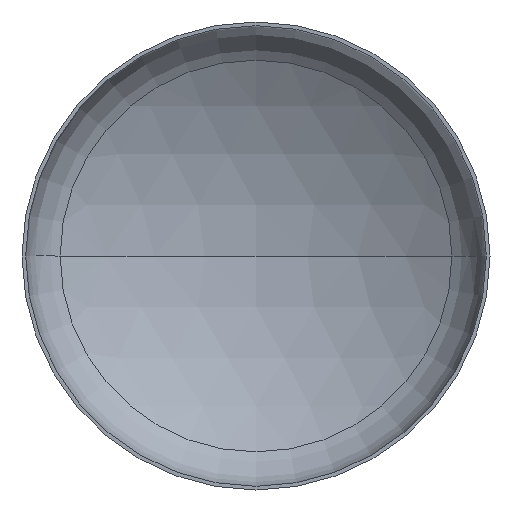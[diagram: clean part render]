
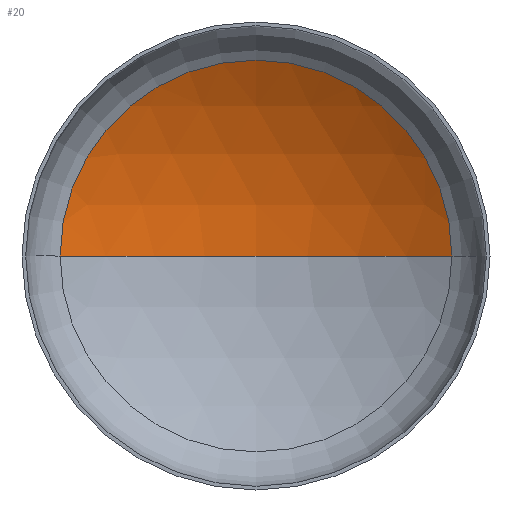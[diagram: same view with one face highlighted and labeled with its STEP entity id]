
A CAD part, front view. The second image highlights one B-rep face of the part: STEP entity #20.
In plain terms, the highlighted spherical face has radius 2720 mm.
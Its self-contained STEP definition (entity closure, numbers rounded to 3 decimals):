
#3 = AXIS2_PLACEMENT_3D ( 'NONE', #166, #340, #157 ) ;
#7 = AXIS2_PLACEMENT_3D ( 'NONE', #136, #150, #153 ) ;
#11 = EDGE_LOOP ( 'NONE', ( #145, #111, #134 ) ) ;
#20 = ADVANCED_FACE ( 'NONE', ( #158 ), #140, .F. ) ;
#28 = VERTEX_POINT ( 'NONE', #247 ) ;
#38 = VERTEX_POINT ( 'NONE', #253 ) ;
#43 = CIRCLE ( 'NONE', #3, 2720. ) ;
#59 = AXIS2_PLACEMENT_3D ( 'NONE', #223, #261, #260 ) ;
#74 = VERTEX_POINT ( 'NONE', #263 ) ;
#99 = AXIS2_PLACEMENT_3D ( 'NONE', #257, #293, #373 ) ;
#111 = ORIENTED_EDGE ( 'NONE', *, *, #366, .T. ) ;
#134 = ORIENTED_EDGE ( 'NONE', *, *, #161, .T. ) ;
#136 = CARTESIAN_POINT ( 'NONE',  ( 0., -1785.861, 0. ) ) ;
#140 = SPHERICAL_SURFACE ( 'NONE', #99, 2720. ) ;
#145 = ORIENTED_EDGE ( 'NONE', *, *, #369, .F. ) ;
#150 = DIRECTION ( 'NONE',  ( 0., 0., -1. ) ) ;
#153 = DIRECTION ( 'NONE',  ( -1., 0., 0. ) ) ;
#157 = DIRECTION ( 'NONE',  ( 1., 0., 0. ) ) ;
#158 = FACE_OUTER_BOUND ( 'NONE', #11, .T. ) ;
#161 = EDGE_CURVE ( 'NONE', #38, #28, #187, .T. ) ;
#166 = CARTESIAN_POINT ( 'NONE',  ( 0., -1785.861, 0. ) ) ;
#187 = CIRCLE ( 'NONE', #59, 1422.579 ) ;
#223 = CARTESIAN_POINT ( 'NONE',  ( 0., 532.472, 0. ) ) ;
#247 = CARTESIAN_POINT ( 'NONE',  ( -1422.579, 532.472, 0. ) ) ;
#253 = CARTESIAN_POINT ( 'NONE',  ( 1422.579, 532.472, 0. ) ) ;
#257 = CARTESIAN_POINT ( 'NONE',  ( 0., -1785.861, 0. ) ) ;
#260 = DIRECTION ( 'NONE',  ( 1., 0., 0. ) ) ;
#261 = DIRECTION ( 'NONE',  ( 0., -1., 0. ) ) ;
#263 = CARTESIAN_POINT ( 'NONE',  ( 0., 934.139, 0. ) ) ;
#293 = DIRECTION ( 'NONE',  ( 0., 0., -1. ) ) ;
#340 = DIRECTION ( 'NONE',  ( 0., 0., 1. ) ) ;
#366 = EDGE_CURVE ( 'NONE', #74, #38, #393, .T. ) ;
#369 = EDGE_CURVE ( 'NONE', #74, #28, #43, .T. ) ;
#373 = DIRECTION ( 'NONE',  ( -1., 0., 0. ) ) ;
#393 = CIRCLE ( 'NONE', #7, 2720. ) ;
